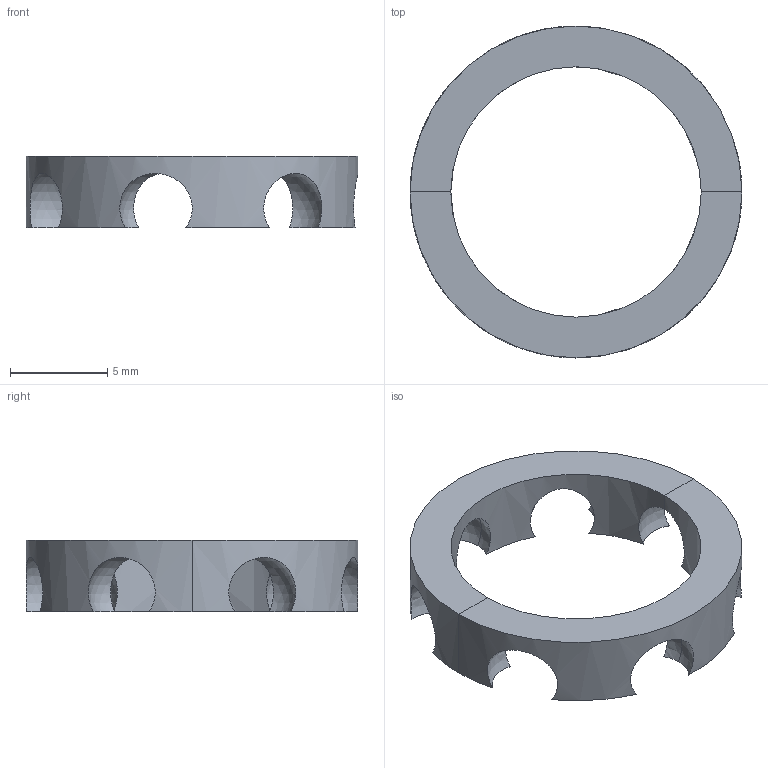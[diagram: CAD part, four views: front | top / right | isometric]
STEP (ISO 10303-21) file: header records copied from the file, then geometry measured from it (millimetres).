
FILE_DESCRIPTION(('BendCAD export'),'2;1');
FILE_NAME('bendcad.step','',('BendCAD'),('BendCAD'),'BendCAD','BendCAD','');
FILE_SCHEMA(('AUTOMOTIVE_DESIGN'));
Length unit declared in the file: millimetre
Products named in the file (1): BENDCAD
Bounding box: 17.1 x 17.1 x 3.68 mm (x, y, z)
Volume: 216.5 mm3; surface area: 504.7 mm2
Topology: 1 solids, 1 shells, 30 faces, 875 edges, 831 vertices
Faces by surface type: sphere 16, plane 10, cylinder 4
Entity records: 8704 total; most frequent: CARTESIAN_POINT 4198, ORIENTED_EDGE 1722, EDGE_CURVE 861, VERTEX_POINT 831, B_SPLINE_CURVE_WITH_KNOTS 794, DIRECTION 89, AXIS2_PLACEMENT_3D 41, EDGE_LOOP 30
